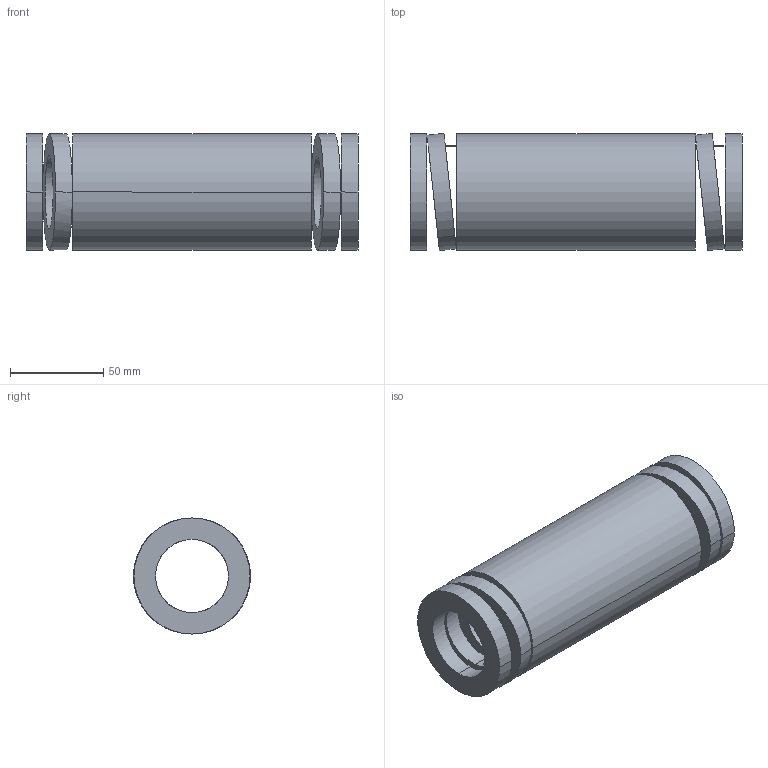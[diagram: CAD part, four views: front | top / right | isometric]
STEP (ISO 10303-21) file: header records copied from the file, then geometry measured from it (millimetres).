
FILE_DESCRIPTION(('CATIA V5 STEP Exchange'),'2;1');
FILE_NAME('C:\Users\Utente\Desktop\IO LAVORO\3D X SITO CF\X SITO\3D files 392B\392-B63-178.stp','2021-08-13T11:45:17+00:00',('none'),('none'),'CATIA Version 5 Release 20 GA (IN-10)','CATIA V5 STEP AP203','none');
FILE_SCHEMA(('CONFIG_CONTROL_DESIGN'));
Length unit declared in the file: millimetre
Products named in the file (1): 392-B63-178
Bounding box: 178 x 62.81 x 62.2 mm (x, y, z)
Volume: 300715.5 mm3; surface area: 70630.6 mm2
Topology: 1 solids, 1 shells, 38 faces, 92 edges, 64 vertices
Faces by surface type: cylinder 28, plane 10
Entity records: 1566 total; most frequent: CARTESIAN_POINT 677, ORIENTED_EDGE 184, DIRECTION 129, EDGE_CURVE 92, AXIS2_PLACEMENT_3D 64, VERTEX_POINT 64, EDGE_LOOP 56, B_SPLINE_CURVE_WITH_KNOTS 39
